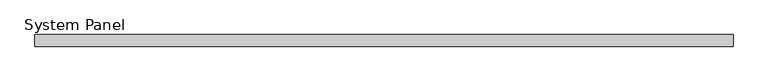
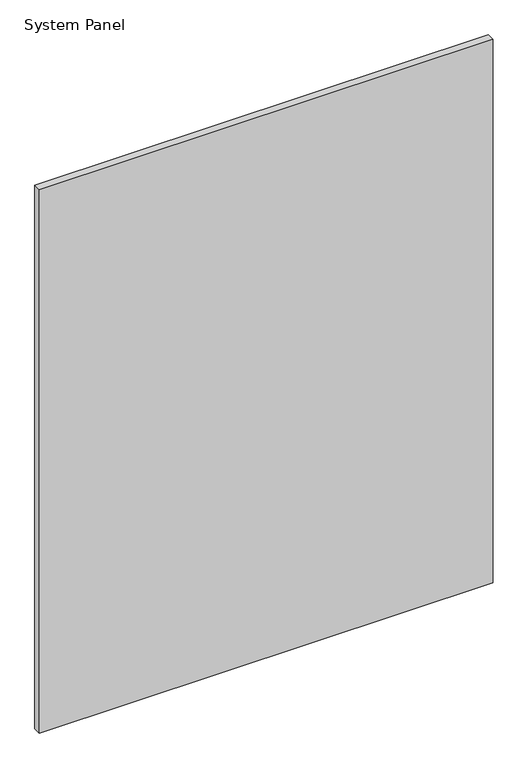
"""IFC4 building model written with IfcOpenShell, lengths in millimetres: plate geometry, System Panel : Panel_Glazed_Generic Showcase_30mm."""

import ifcopenshell
import ifcopenshell.guid

model = None  # the IFC model being written
_history = None  # IfcOwnerHistory: only IFC2X3 demands one
_inside = {}  # id of a spatial element -> (the spatial element, [elements in it])
_under = {}  # id of a project, library or spatial element -> (it, [spatial elements below it])
_declared = {}  # id of a project -> (the project, [libraries it declares])
_typed = {}  # id of a type object -> (the type object, [elements of that type])
_made_of = {}  # id of a material, layer set ... -> (it, [elements and type objects made of it])


def new_model(schema):
    """Start an empty IFC model of exactly this schema.

    Asked for "IFC4X3", IfcOpenShell would pick the latest addendum, in which some entities
    have other attributes; the version numbers below select the first issue.
    IFC2X3 requires an IfcOwnerHistory on every rooted entity: one is made here for all.
    """
    global model, _history
    if schema == "IFC4X3":
        model = ifcopenshell.file(schema_version=(4, 3, 0, 0))
    else:
        model = ifcopenshell.file(schema=schema)
    _inside.clear()
    _under.clear()
    _declared.clear()
    _typed.clear()
    _made_of.clear()
    _history = None
    if model.schema == "IFC2X3":
        org = make("IfcOrganization", Name="unknown")
        user = make(
            "IfcPersonAndOrganization",
            ThePerson=make("IfcPerson", FamilyName="unknown"),
            TheOrganization=org,
        )
        app = make(
            "IfcApplication",
            ApplicationDeveloper=org,
            Version="unknown",
            ApplicationFullName="unknown",
            ApplicationIdentifier="unknown",
        )
        _history = make(
            "IfcOwnerHistory",
            OwningUser=user,
            OwningApplication=app,
            ChangeAction="ADDED",
            CreationDate=0,
        )
    return model


def make(cls, **values):
    """One entity of the class cls with the attributes given. An attribute that is None is left unset."""
    return model.create_entity(
        cls, **{name: value for name, value in values.items() if value is not None}
    )


def rooted(cls, **values):
    """An entity with a GlobalId (a new one), such as an element, a storey or a relation."""
    return make(cls, GlobalId=ifcopenshell.guid.new(), OwnerHistory=_history, **values)


def si_unit(unit_type, name, prefix=None):
    """IfcSIUnit, for example si_unit("LENGTHUNIT", "METRE", prefix="MILLI")."""
    return make("IfcSIUnit", UnitType=unit_type, Prefix=prefix, Name=name)


def assignment(units):
    """IfcUnitAssignment: the units of a project."""
    return None if units is None else make("IfcUnitAssignment", Units=units)


def point(xyz):
    """IfcCartesianPoint."""
    return None if xyz is None else make("IfcCartesianPoint", Coordinates=xyz)


def direction(xyz):
    """IfcDirection."""
    return None if xyz is None else make("IfcDirection", DirectionRatios=xyz)


def frame(location, z_axis=None, x_axis=None):
    """IfcAxis2Placement3D, a coordinate frame: its origin and axes. An axis left out is left unset."""
    return make(
        "IfcAxis2Placement3D",
        Location=point(location),
        Axis=direction(z_axis),
        RefDirection=direction(x_axis),
    )


def origin():
    """The frame at (0, 0, 0) with its axes left unset."""
    return frame((0.0, 0.0, 0.0))


def origin_with_axes():
    """The frame at (0, 0, 0) with the z axis (0, 0, 1) and the x axis (1, 0, 0) written out."""
    return frame((0.0, 0.0, 0.0), z_axis=(0.0, 0.0, 1.0), x_axis=(1.0, 0.0, 0.0))


def place(relative_to, where):
    """IfcLocalPlacement: puts the frame where relative to a parent placement (None: the world)."""
    return make(
        "IfcLocalPlacement", PlacementRelTo=relative_to, RelativePlacement=where
    )


def context(
    kind, dimensions, precision=None, world=None, true_north=None, identifier=None
):
    """IfcGeometricRepresentationContext, for example the 3D "Model" context."""
    return make(
        "IfcGeometricRepresentationContext",
        ContextIdentifier=identifier,
        ContextType=kind,
        CoordinateSpaceDimension=dimensions,
        Precision=precision,
        WorldCoordinateSystem=world,
        TrueNorth=true_north,
    )


def project(units=None, contexts=None):
    """IfcProject with its units and contexts."""
    return rooted(
        "IfcProject",
        Name="project",
        RepresentationContexts=contexts,
        UnitsInContext=assignment(units),
    )


def spatial(cls, under=None, at=None, **own):
    """A site, building, storey or space (cls), placed at a placement, below another one or the project."""
    s = rooted(cls, ObjectPlacement=at, **own)
    if under is not None:
        _under.setdefault(under.id(), (under, []))[1].append(s)
    return s


def polyline(points):
    """IfcPolyline through the points."""
    return make("IfcPolyline", Points=[point(p) for p in points])


def outline(outer, holes=None, kind="AREA"):
    """IfcArbitraryClosedProfileDef: a profile drawn as a closed curve; with holes, ...WithVoids."""
    if holes is None:
        return make("IfcArbitraryClosedProfileDef", ProfileType=kind, OuterCurve=outer)
    return make(
        "IfcArbitraryProfileDefWithVoids",
        ProfileType=kind,
        OuterCurve=outer,
        InnerCurves=holes,
    )


def extrude(swept, where, along, depth):
    """IfcExtrudedAreaSolid: the profile swept, set in the frame where, extruded along a direction by depth."""
    return make(
        "IfcExtrudedAreaSolid",
        SweptArea=swept,
        Position=where,
        ExtrudedDirection=direction(along),
        Depth=depth,
    )


def shape(context_of_items, identifier, shape_type, items):
    """IfcShapeRepresentation: the items that make up one representation, for example the "Body"."""
    return make(
        "IfcShapeRepresentation",
        ContextOfItems=context_of_items,
        RepresentationIdentifier=identifier,
        RepresentationType=shape_type,
        Items=items,
    )


def source(mapping_origin, context_of_items, identifier, shape_type, items):
    """IfcRepresentationMap: a shape defined once, which mapped items show again and again."""
    return make(
        "IfcRepresentationMap",
        MappingOrigin=mapping_origin,
        MappedRepresentation=shape(context_of_items, identifier, shape_type, items),
    )


def transform(
    local_origin,
    x_axis=None,
    y_axis=None,
    z_axis=None,
    scale=None,
    scale2=None,
    scale3=None,
    uniform=True,
):
    """IfcCartesianTransformationOperator3D, or its non-uniform kind. x_axis, y_axis, z_axis: its Axis1, 2, 3."""
    if uniform:
        return make(
            "IfcCartesianTransformationOperator3D",
            Axis1=direction(x_axis),
            Axis2=direction(y_axis),
            LocalOrigin=point(local_origin),
            Scale=scale,
            Axis3=direction(z_axis),
        )
    return make(
        "IfcCartesianTransformationOperator3DnonUniform",
        Axis1=direction(x_axis),
        Axis2=direction(y_axis),
        LocalOrigin=point(local_origin),
        Scale=scale,
        Axis3=direction(z_axis),
        Scale2=scale2,
        Scale3=scale3,
    )


def mapped(mapping_source, mapping_target):
    """IfcMappedItem: shows the shape of a source again, moved by a transform."""
    return make(
        "IfcMappedItem", MappingSource=mapping_source, MappingTarget=mapping_target
    )


def made_of(thing, what):
    """Note that an element or type object is made of a material, layer set ...; save() writes the relation."""
    if what is not None:
        _made_of.setdefault(what.id(), (what, []))[1].append(thing)
    return thing


def element(
    cls,
    number,
    at=None,
    inside=None,
    cuts=None,
    type_object=None,
    material=None,
    context=None,
    identifier="Body",
    shape_type=None,
    held_by="IfcProductDefinitionShape",
    body=None,
    shapes=None,
    **own,
):
    """One element of the class cls, such as IfcWall. Its Tag is "e" and its number.

    at: its placement. inside: the storey or other place that contains it. cuts: it is an
    opening in that element (IfcRelVoidsElement). A single representation is given by context,
    identifier, shape_type and body (its items); several are given by shapes. held_by: the class
    of the entity that holds the representations. save() writes the other relations.
    """
    e = rooted(cls, Tag="e%d" % number, ObjectPlacement=at, **own)
    if body is not None:
        shapes = [shape(context, identifier, shape_type, body)]
    if shapes is not None:
        e.Representation = make(held_by, Representations=shapes)
    if inside is not None:
        _inside.setdefault(inside.id(), (inside, []))[1].append(e)
    if cuts is not None:
        rooted(
            "IfcRelVoidsElement", RelatingBuildingElement=cuts, RelatedOpeningElement=e
        )
    if type_object is not None:
        _typed.setdefault(type_object.id(), (type_object, []))[1].append(e)
    return made_of(e, material)


def aggregate(whole, parts):
    """IfcRelAggregates: a whole, such as a stair, and the parts it consists of."""
    return rooted("IfcRelAggregates", RelatingObject=whole, RelatedObjects=parts)


def save(model, path):
    """Write the relations noted so far, then the file.

    IfcRelAggregates (storeys below a building ...), IfcRelContainedInSpatialStructure (elements
    in a storey), IfcRelDefinesByType, IfcRelAssociatesMaterial and IfcRelDeclares: one each for
    every whole, place, type object, material and project.
    """
    for whole, parts in _under.values():
        aggregate(whole, parts)
    for where, things in _inside.values():
        rooted(
            "IfcRelContainedInSpatialStructure",
            RelatedElements=things,
            RelatingStructure=where,
        )
    for kind, things in _typed.values():
        rooted("IfcRelDefinesByType", RelatedObjects=things, RelatingType=kind)
    for what, things in _made_of.values():
        rooted("IfcRelAssociatesMaterial", RelatedObjects=things, RelatingMaterial=what)
    for by, libraries in _declared.values():
        rooted("IfcRelDeclares", RelatingContext=by, RelatedDefinitions=libraries)
    model.write(path)


def system_panel_812bae4d(model_context):
    return source(origin(), model_context, "Body", "SweptSolid", [
        extrude(outline(polyline([(869.239998, 0.0), (-869.239998, 0.0), (-869.239998, 30.0), (869.239998, 30.0), (869.239998, 0.0)])), origin_with_axes(), (0.0, 0.0, 1.0), 2200.0),
    ])


if __name__ == "__main__":
    model = new_model("IFC4")
    model_context = context("Model", 3, world=origin())
    ifc_project = project(units=[si_unit("LENGTHUNIT", "METRE", prefix="MILLI")], contexts=[model_context])
    site = spatial("IfcSite", under=ifc_project)
    building = spatial("IfcBuilding", under=site)
    placement = place(None, origin())
    system_panel_shape = system_panel_812bae4d(model_context)
    element("IfcPlate", 1, ObjectType="System Panel : Panel_Glazed_Generic Showcase_30mm", at=placement, inside=building, context=model_context, shape_type="MappedRepresentation", body=[
        mapped(system_panel_shape, transform((0.0, 0.0, 0.0), x_axis=(1.0, 0.0, 0.0), y_axis=(0.0, 1.0, 0.0), z_axis=(0.0, 0.0, 1.0))),
    ])
    save(model, "model.ifc")
